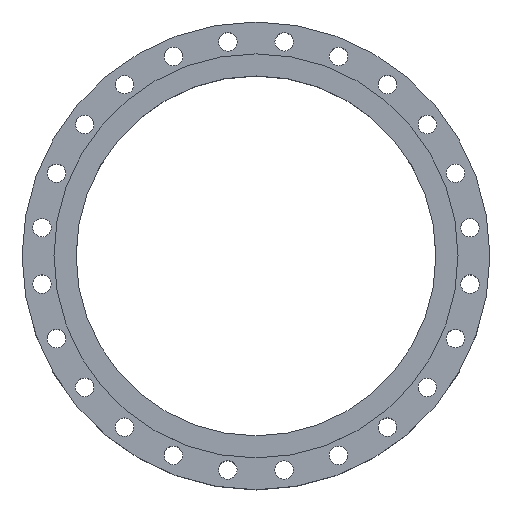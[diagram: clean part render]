
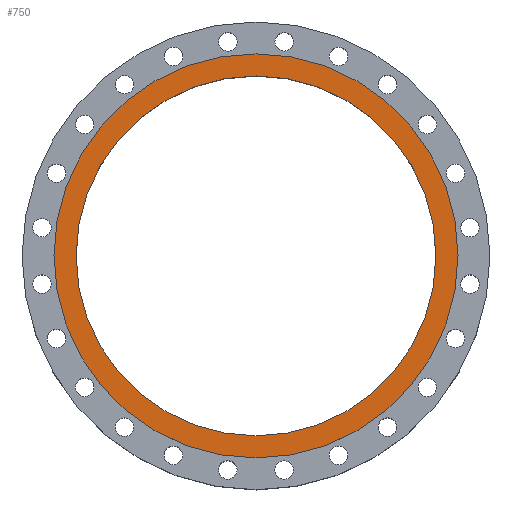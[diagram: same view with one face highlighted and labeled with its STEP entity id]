
A CAD part, top view. The second image highlights one B-rep face of the part: STEP entity #750.
In plain terms, the highlighted planar face has unit normal (0, 0, 1).
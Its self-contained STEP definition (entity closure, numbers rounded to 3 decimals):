
#750=ADVANCED_FACE('',(#1679,#1681),#1683,.T.);
#1679=FACE_BOUND('',#1680,.T.);
#1680=EDGE_LOOP('',(#2044));
#1681=FACE_BOUND('',#1682,.T.);
#1682=EDGE_LOOP('',(#2045));
#1683=PLANE('',#1684);
#1684=AXIS2_PLACEMENT_3D('',#1685,#1686,#1687);
#1685=CARTESIAN_POINT('',(0.,0.,132.5));
#1686=DIRECTION('',(0.,0.,1.));
#1687=DIRECTION('',(0.,1.,0.));
#2044=ORIENTED_EDGE('',*,*,#2208,.F.);
#2045=ORIENTED_EDGE('',*,*,#2210,.T.);
#2208=EDGE_CURVE('',#2502,#2502,#2503,.T.);
#2210=EDGE_CURVE('',#2506,#2506,#2507,.T.);
#2502=VERTEX_POINT('',#4207);
#2503=CIRCLE('',#4208,393.);
#2506=VERTEX_POINT('',#4217);
#2507=CIRCLE('',#4218,350.);
#4207=CARTESIAN_POINT('',(0.,393.,132.5));
#4208=AXIS2_PLACEMENT_3D('',#4209,#4210,#4211);
#4209=CARTESIAN_POINT('',(0.,0.,132.5));
#4210=DIRECTION('',(0.,0.,-1.));
#4211=DIRECTION('',(0.,1.,0.));
#4217=CARTESIAN_POINT('',(0.,350.,132.5));
#4218=AXIS2_PLACEMENT_3D('',#4219,#4220,#4221);
#4219=CARTESIAN_POINT('',(0.,0.,132.5));
#4220=DIRECTION('',(0.,0.,-1.));
#4221=DIRECTION('',(0.,1.,0.));
